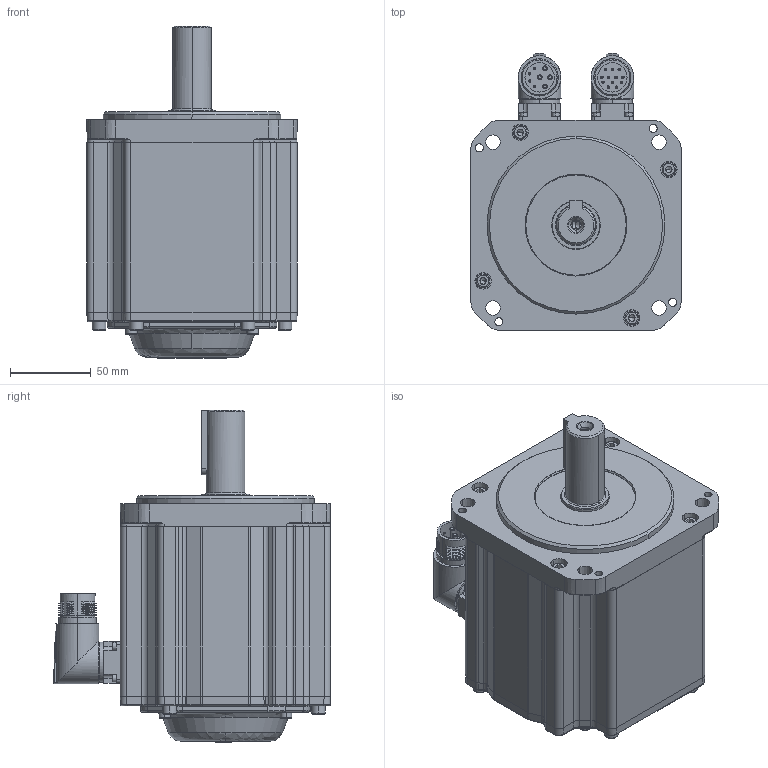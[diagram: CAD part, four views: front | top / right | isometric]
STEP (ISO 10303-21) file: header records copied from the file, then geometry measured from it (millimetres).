
FILE_DESCRIPTION (( 'STEP AP203' ), '1' );
FILE_NAME ('MC20-130-3M20-N102-0¡õPK-NNNN.STEP', '2025-05-04T14:08:28', ( '' ), ( '' ), 'SwSTEP 2.0', 'SolidWorks 2014', '' );
FILE_SCHEMA (( 'CONFIG_CONTROL_DESIGN' ));
Length unit declared in the file: millimetre
Products named in the file (1): MC20-130-3M20-N102-0¡õPK-NNNN
Bounding box: 130 x 171.35 x 205.3 mm (x, y, z)
Volume: 2154789.9 mm3; surface area: 260169.1 mm2
Topology: 28 solids, 28 shells, 2024 faces, 4803 edges, 2863 vertices
Faces by surface type: plane 735, cylinder 568, cone 357, bspline 204, torus 148, sphere 12
Entity records: 62226 total; most frequent: CARTESIAN_POINT 16865, DIRECTION 9530, ORIENTED_EDGE 9382, EDGE_CURVE 4691, AXIS2_PLACEMENT_3D 3694, VERTEX_POINT 2863, EDGE_LOOP 2270, VECTOR 2142
